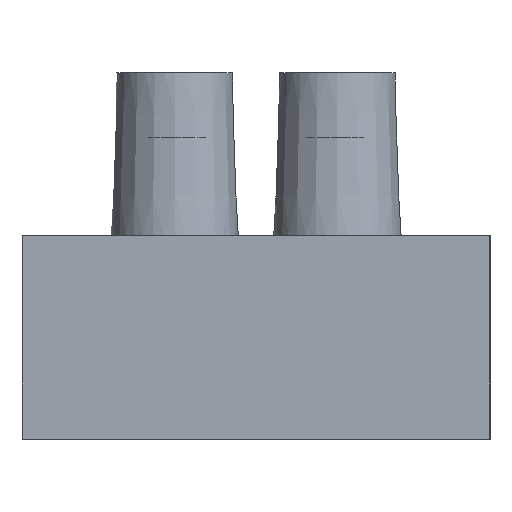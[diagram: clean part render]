
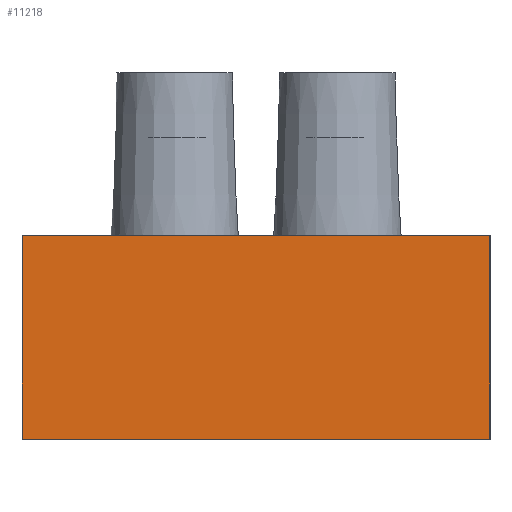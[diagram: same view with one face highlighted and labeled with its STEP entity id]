
A CAD part, left-side view. The second image highlights one B-rep face of the part: STEP entity #11218.
In plain terms, the highlighted planar face has unit normal (-1, 0, 0).
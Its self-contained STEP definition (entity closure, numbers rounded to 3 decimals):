
#1022=ORIENTED_EDGE('',*,*,#4147,.T.);
#1023=ORIENTED_EDGE('',*,*,#4163,.F.);
#1024=ORIENTED_EDGE('',*,*,#4140,.F.);
#1025=ORIENTED_EDGE('',*,*,#4154,.T.);
#4140=EDGE_CURVE('',#5726,#5727,#6846,.T.);
#4147=EDGE_CURVE('',#5732,#5733,#6852,.T.);
#4154=EDGE_CURVE('',#5726,#5732,#6858,.T.);
#4163=EDGE_CURVE('',#5727,#5733,#6865,.T.);
#5726=VERTEX_POINT('',#16849);
#5727=VERTEX_POINT('',#16850);
#5732=VERTEX_POINT('',#16863);
#5733=VERTEX_POINT('',#16864);
#6846=LINE('',#16848,#8094);
#6852=LINE('',#16862,#8100);
#6858=LINE('',#16876,#8106);
#6865=LINE('',#16896,#8113);
#8094=VECTOR('',#13338,1000.);
#8100=VECTOR('',#13348,1000.);
#8106=VECTOR('',#13358,1000.);
#8113=VECTOR('',#13375,1000.);
#9096=EDGE_LOOP('',(#1022,#1023,#1024,#1025));
#9918=FACE_BOUND('',#9096,.T.);
#10715=PLANE('',#11904);
#11218=ADVANCED_FACE('',(#9918),#10715,.F.);
#11904=AXIS2_PLACEMENT_3D('',#16895,#13373,#13374);
#13338=DIRECTION('',(0.,0.,1.));
#13348=DIRECTION('',(0.,0.,1.));
#13358=DIRECTION('',(0.,-1.,0.));
#13373=DIRECTION('',(1.,0.,0.));
#13374=DIRECTION('',(0.,0.,-1.));
#13375=DIRECTION('',(0.,-1.,0.));
#16848=CARTESIAN_POINT('',(-3.75,23.,-5.));
#16849=CARTESIAN_POINT('',(-3.75,23.,-5.));
#16850=CARTESIAN_POINT('',(-3.75,23.,5.));
#16862=CARTESIAN_POINT('',(-3.75,0.,-5.));
#16863=CARTESIAN_POINT('',(-3.75,0.,-5.));
#16864=CARTESIAN_POINT('',(-3.75,0.,5.));
#16876=CARTESIAN_POINT('',(-3.75,23.,-5.));
#16895=CARTESIAN_POINT('',(-3.75,23.,-5.));
#16896=CARTESIAN_POINT('',(-3.75,23.,5.));
